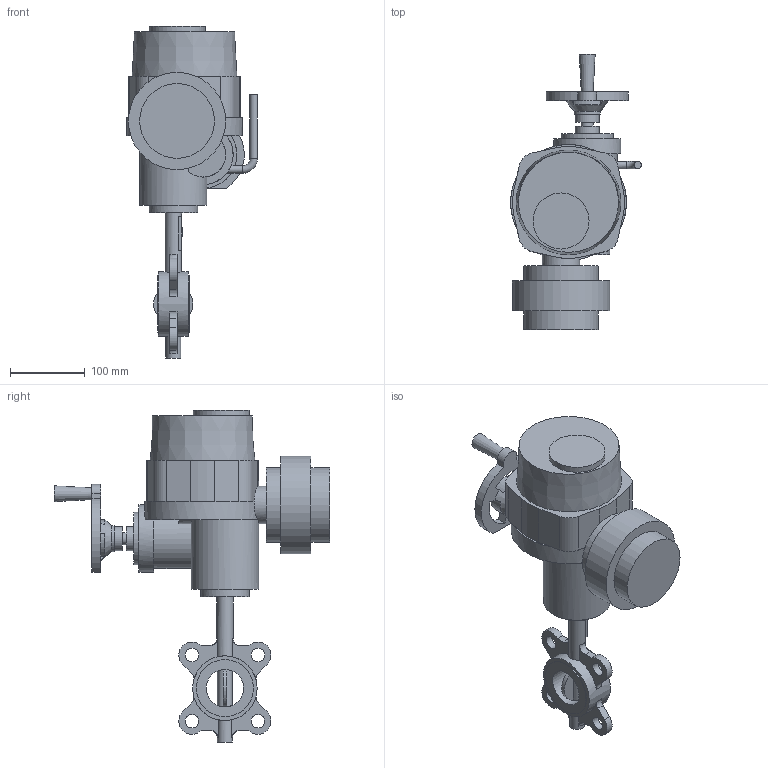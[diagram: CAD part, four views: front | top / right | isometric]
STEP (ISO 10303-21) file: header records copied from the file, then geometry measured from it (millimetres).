
FILE_DESCRIPTION(('STEP AP203'), '1');
FILE_NAME('青蜮铕 017W.Y_DN50_QT.A 005', '', ('UNSPECIFIED'), ('UNSPECIFIED'), 'ASCON STEP Converter 1.6', 'ASCON Math Kernel', '');
FILE_SCHEMA(('CONFIG_CONTROL_DESIGN'));
Length unit declared in the file: millimetre
Bounding box: 175 x 368 x 444 mm (x, y, z)
Volume: 4871991.2 mm3; surface area: 297996.1 mm2
Topology: 1 solids, 1 shells, 196 faces, 470 edges, 306 vertices
Faces by surface type: plane 111, cylinder 77, torus 5, cone 3
Full cylindrical faces by diameter (mm): 6.7 x8, 8 x4, 10 x2, 16 x1, 18 x4, 20 x2, 22 x1, 32 x2, 35 x1, 50 x2, 65 x1, 70 x1, 75 x1, 76.3 x2, 86.3 x1, 90 x2, 100 x2, 130 x1
Entity records: 8832 total; most frequent: CARTESIAN_POINT 2652, DIRECTION 999, ORIENTED_EDGE 856, EDGE_CURVE 428, AXIS2_PLACEMENT_3D 406, VERTEX_POINT 306, EDGE_LOOP 286, FACE_BOUND 213
